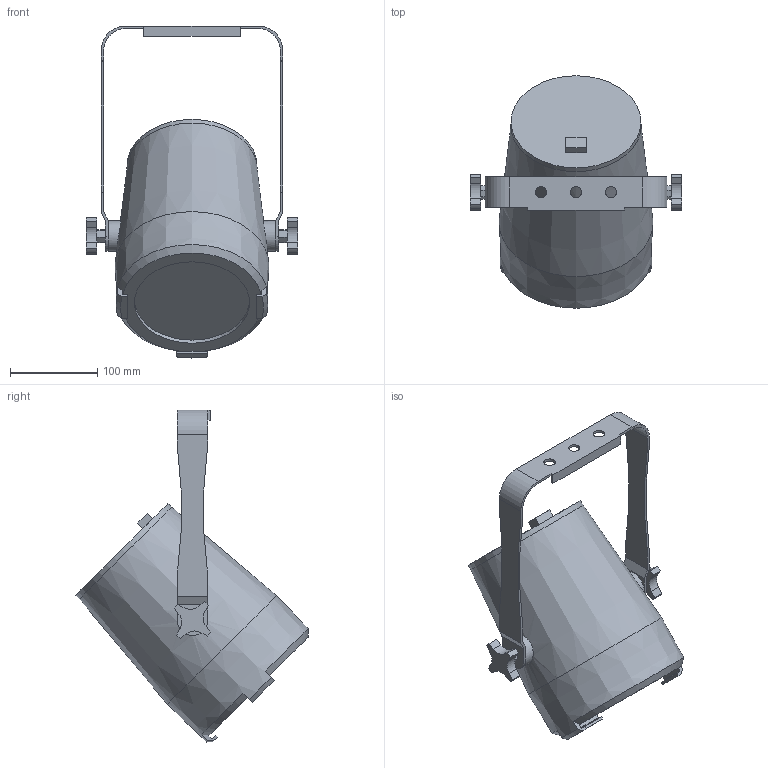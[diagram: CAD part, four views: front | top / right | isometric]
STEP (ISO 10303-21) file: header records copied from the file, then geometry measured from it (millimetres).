
FILE_DESCRIPTION(/* description */ (''),/* implementation_level */ '2;1');
FILE_NAME(/* name */ 'D:/dgooch/Documents/CADENG/PRO/COLORado 1 Solo/45/3D/COLORado 1 Solo_45.step',/* time_stamp */ '2019-09-11T11:05:31-04:00',/* author */ (''),/* organization */ (''),/* preprocessor_version */ 'ST-DEVELOPER v18',/* originating_system */ 'Autodesk Translation Framework v8.6.0.1094',/* authorisation */ '');
FILE_SCHEMA (('AUTOMOTIVE_DESIGN { 1 0 10303 214 3 1 1 }'));
Length unit declared in the file: millimetre
Products named in the file (3): COLORado 1 Solo; Bracket; Main
Assembly tree (2 placements, depth 2):
  COLORado 1 Solo
    Bracket
    Main
Bounding box: 241.96 x 265.82 x 379.85 mm (x, y, z)
Volume: 4831478.5 mm3; surface area: 231875.4 mm2
Topology: 2 solids, 2 shells, 136 faces, 379 edges, 255 vertices
Faces by surface type: plane 89, cylinder 38, cone 9
Full cylindrical faces by diameter (mm): 8 x2, 13 x3, 35 x2, 132 x1
Entity records: 4623 total; most frequent: CARTESIAN_POINT 983, ORIENTED_EDGE 758, DIRECTION 732, EDGE_CURVE 379, VERTEX_POINT 255, LINE 252, VECTOR 252, AXIS2_PLACEMENT_3D 240
